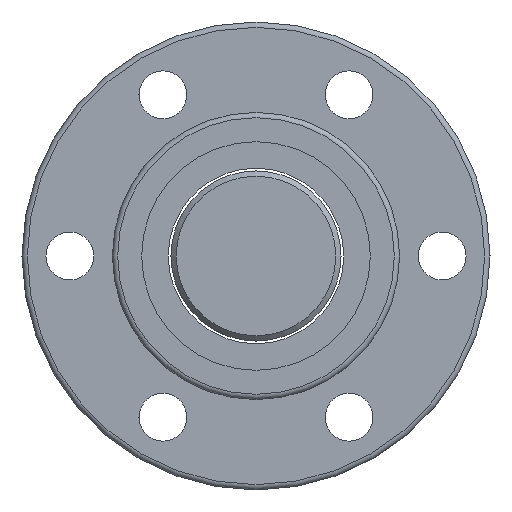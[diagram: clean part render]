
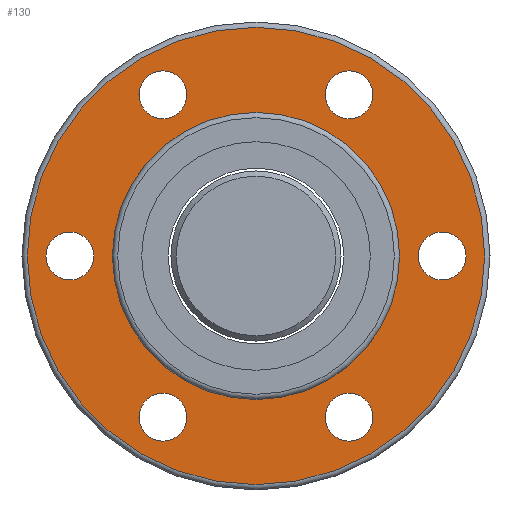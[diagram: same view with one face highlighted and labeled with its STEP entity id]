
A CAD part, left-side view. The second image highlights one B-rep face of the part: STEP entity #130.
In plain terms, the highlighted planar face has unit normal (-1, 0, 0).
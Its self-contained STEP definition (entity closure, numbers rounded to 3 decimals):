
#130=ADVANCED_FACE('',(#210,#211,#212,#213,#214,#215,#191,#216),#174,.F.);
#174=PLANE('',#641);
#191=FACE_OUTER_BOUND('',#295,.T.);
#210=FACE_BOUND('',#289,.T.);
#211=FACE_BOUND('',#290,.T.);
#212=FACE_BOUND('',#291,.T.);
#213=FACE_BOUND('',#292,.T.);
#214=FACE_BOUND('',#293,.T.);
#215=FACE_BOUND('',#294,.T.);
#216=FACE_BOUND('',#296,.T.);
#289=EDGE_LOOP('',(#387));
#290=EDGE_LOOP('',(#388));
#291=EDGE_LOOP('',(#389));
#292=EDGE_LOOP('',(#390));
#293=EDGE_LOOP('',(#391));
#294=EDGE_LOOP('',(#392));
#295=EDGE_LOOP('',(#393));
#296=EDGE_LOOP('',(#394));
#387=ORIENTED_EDGE('',*,*,#534,.T.);
#388=ORIENTED_EDGE('',*,*,#535,.T.);
#389=ORIENTED_EDGE('',*,*,#536,.T.);
#390=ORIENTED_EDGE('',*,*,#537,.T.);
#391=ORIENTED_EDGE('',*,*,#538,.T.);
#392=ORIENTED_EDGE('',*,*,#539,.T.);
#393=ORIENTED_EDGE('',*,*,#540,.F.);
#394=ORIENTED_EDGE('',*,*,#541,.T.);
#485=VERTEX_POINT('',#916);
#486=VERTEX_POINT('',#918);
#487=VERTEX_POINT('',#920);
#488=VERTEX_POINT('',#922);
#489=VERTEX_POINT('',#924);
#490=VERTEX_POINT('',#926);
#491=VERTEX_POINT('',#928);
#492=VERTEX_POINT('',#930);
#534=EDGE_CURVE('',#485,#485,#583,.T.);
#535=EDGE_CURVE('',#486,#486,#584,.T.);
#536=EDGE_CURVE('',#487,#487,#585,.T.);
#537=EDGE_CURVE('',#488,#488,#586,.T.);
#538=EDGE_CURVE('',#489,#489,#587,.T.);
#539=EDGE_CURVE('',#490,#490,#588,.T.);
#540=EDGE_CURVE('',#491,#491,#589,.T.);
#541=EDGE_CURVE('',#492,#492,#590,.T.);
#583=CIRCLE('',#633,4.5);
#584=CIRCLE('',#634,4.5);
#585=CIRCLE('',#635,4.5);
#586=CIRCLE('',#636,4.5);
#587=CIRCLE('',#637,4.5);
#588=CIRCLE('',#638,4.5);
#589=CIRCLE('',#639,43.);
#590=CIRCLE('',#640,27.);
#633=AXIS2_PLACEMENT_3D('',#915,#728,#729);
#634=AXIS2_PLACEMENT_3D('',#917,#730,#731);
#635=AXIS2_PLACEMENT_3D('',#919,#732,#733);
#636=AXIS2_PLACEMENT_3D('',#921,#734,#735);
#637=AXIS2_PLACEMENT_3D('',#923,#736,#737);
#638=AXIS2_PLACEMENT_3D('',#925,#738,#739);
#639=AXIS2_PLACEMENT_3D('',#927,#740,#741);
#640=AXIS2_PLACEMENT_3D('',#929,#742,#743);
#641=AXIS2_PLACEMENT_3D('',#931,#744,#745);
#728=DIRECTION('',(1.,0.,0.));
#729=DIRECTION('',(0.,1.,0.));
#730=DIRECTION('',(1.,0.,0.));
#731=DIRECTION('',(0.,1.,0.));
#732=DIRECTION('',(1.,0.,0.));
#733=DIRECTION('',(0.,1.,0.));
#734=DIRECTION('',(1.,0.,0.));
#735=DIRECTION('',(0.,1.,0.));
#736=DIRECTION('',(1.,0.,0.));
#737=DIRECTION('',(0.,1.,0.));
#738=DIRECTION('',(1.,0.,0.));
#739=DIRECTION('',(0.,1.,0.));
#740=DIRECTION('',(1.,0.,0.));
#741=DIRECTION('',(0.,1.,0.));
#742=DIRECTION('',(1.,0.,0.));
#743=DIRECTION('',(0.,1.,0.));
#744=DIRECTION('',(1.,0.,0.));
#745=DIRECTION('',(0.,1.,0.));
#915=CARTESIAN_POINT('',(-30.,35.,0.));
#916=CARTESIAN_POINT('',(-30.,39.5,0.));
#917=CARTESIAN_POINT('',(-30.,-35.,0.));
#918=CARTESIAN_POINT('',(-30.,-30.5,0.));
#919=CARTESIAN_POINT('',(-30.,17.5,-30.31));
#920=CARTESIAN_POINT('',(-30.,22.,-30.31));
#921=CARTESIAN_POINT('',(-30.,-17.5,-30.31));
#922=CARTESIAN_POINT('',(-30.,-13.,-30.31));
#923=CARTESIAN_POINT('',(-30.,-17.5,30.31));
#924=CARTESIAN_POINT('',(-30.,-13.,30.31));
#925=CARTESIAN_POINT('',(-30.,17.5,30.31));
#926=CARTESIAN_POINT('',(-30.,22.,30.31));
#927=CARTESIAN_POINT('',(-30.,0.,0.));
#928=CARTESIAN_POINT('',(-30.,43.,0.));
#929=CARTESIAN_POINT('',(-30.,0.,0.));
#930=CARTESIAN_POINT('',(-30.,27.,0.));
#931=CARTESIAN_POINT('',(-30.,35.,0.));
